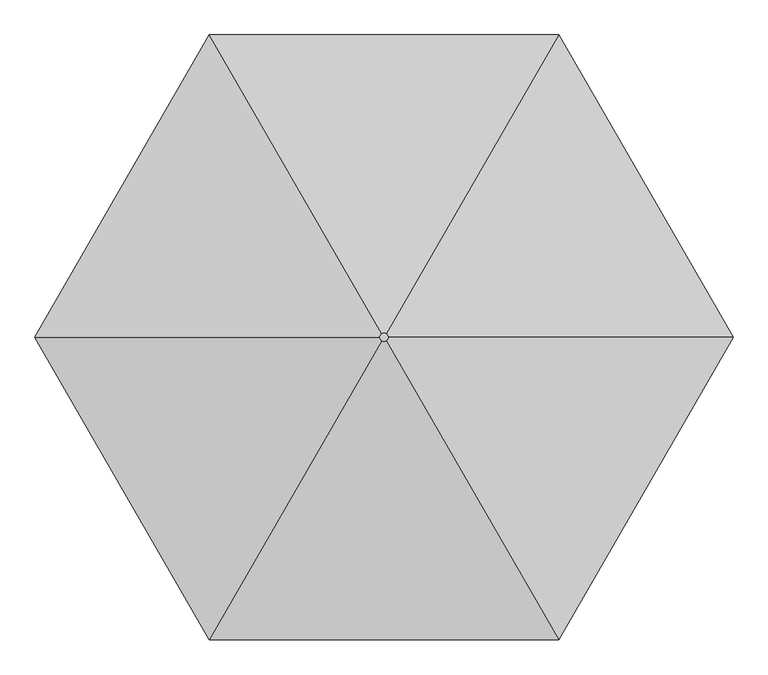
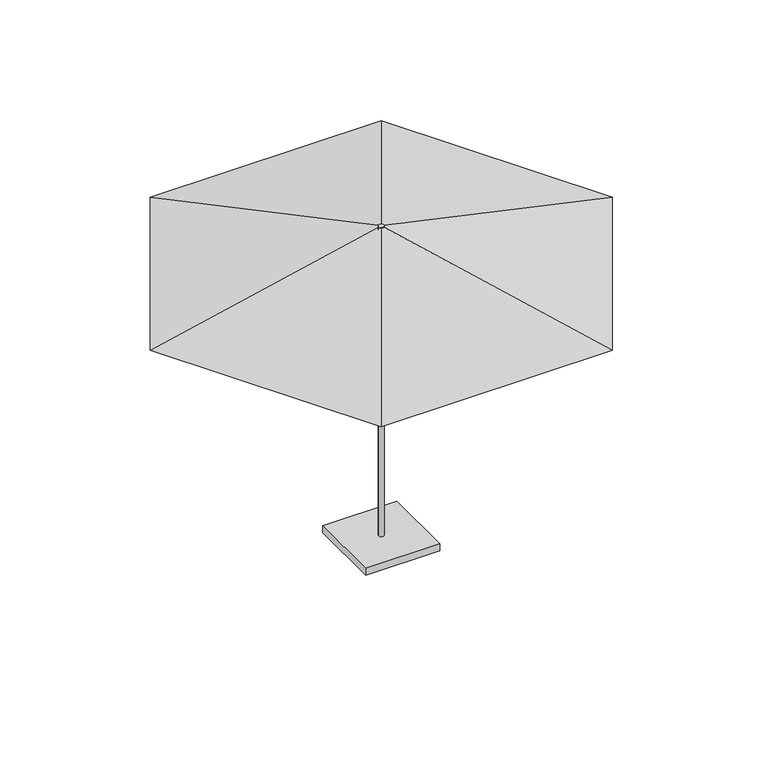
"""IFC4 building model written with IfcOpenShell, lengths in millimetres: furniture geometry, Mobile Ausstattung Sonnenschutz : Sonnenschutz."""

from ifc_helpers import new_model, si_unit, point, frame, origin, origin_with_axes, origin_2d, place, context, project, spatial, polyline, circle_curve, trimmed, segment, composite_curve, outline, extrude, faceted_brep, source, transform, mapped, element, save


def furniture_2ee7efec(model_context):
    return source(origin(), model_context, "Body", "SolidModel", [
        extrude(outline(composite_curve([segment(trimmed(circle_curve(origin_2d(), 15.0), [point((-15.0, 0.0))], [point((15.0, 0.0))], False, "CARTESIAN"), True, "CONTINUOUS"), segment(trimmed(circle_curve(origin_2d(), 15.0), [point((15.0, 0.0))], [point((-15.0, 0.0))], False, "CARTESIAN"), True, "CONTINUOUS")], self_intersect=False)), frame((0.0, 0.0, 40.0), z_axis=(0.0, 0.0, 1.0), x_axis=(1.0, 0.0, 0.0)), (0.0, 0.0, 1.0), 1760.0),
        faceted_brep([(7.5, 12.9903811, 1800.0), (-7.5, 12.9903811, 1800.0), (-15.0, 0.0, 1800.0), (-7.5, -12.9903811, 1800.0), (7.5, -12.9903811, 1800.0), (15.0, 0.0, 1800.0), (622.3835902, 1078.0, 1528.1307688), (1244.7671804, 0.0, 1528.1307688), (622.3835902, -1078.0, 1528.1307688), (-622.3835902, -1078.0, 1528.1307688), (-1244.7671804, 0.0, 1528.1307688), (-622.3835902, 1078.0, 1528.1307688)], [[[0, 1, 2, 3, 4, 5]], [[6, 7, 8, 9, 10, 11]], [[6, 11, 1, 0]], [[11, 10, 2, 1]], [[10, 9, 3, 2]], [[9, 8, 4, 3]], [[8, 7, 5, 4]], [[7, 6, 0, 5]]]),
        extrude(outline(polyline([(200.0, 200.0), (200.0, -200.0), (-200.0, -200.0), (-200.0, 200.0), (200.0, 200.0)])), origin_with_axes(), (0.0, 0.0, 1.0), 40.0),
    ])


if __name__ == "__main__":
    model = new_model("IFC4")
    model_context = context("Model", 3, world=origin())
    ifc_project = project(units=[si_unit("LENGTHUNIT", "METRE", prefix="MILLI")], contexts=[model_context])
    site = spatial("IfcSite", under=ifc_project)
    building = spatial("IfcBuilding", under=site)
    placement = place(None, origin())
    furniture_shape = furniture_2ee7efec(model_context)
    element("IfcFurniture", 1, ObjectType="Mobile Ausstattung Sonnenschutz : Sonnenschutz", at=placement, inside=building, context=model_context, shape_type="MappedRepresentation", body=[
        mapped(furniture_shape, transform((0.0, 0.0, 0.0), x_axis=(1.0, 0.0, 0.0), y_axis=(0.0, 1.0, 0.0), z_axis=(0.0, 0.0, 1.0))),
    ])
    save(model, "model.ifc")
